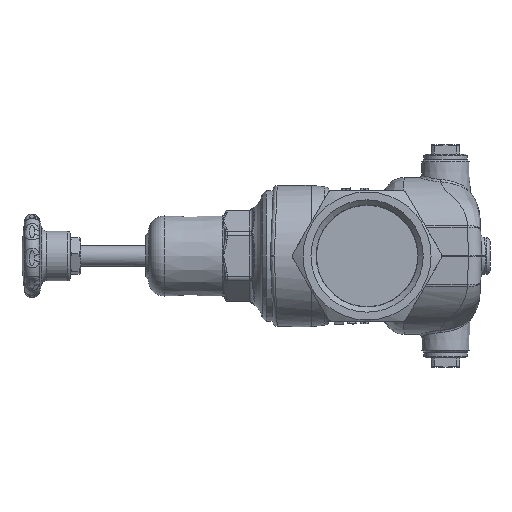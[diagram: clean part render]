
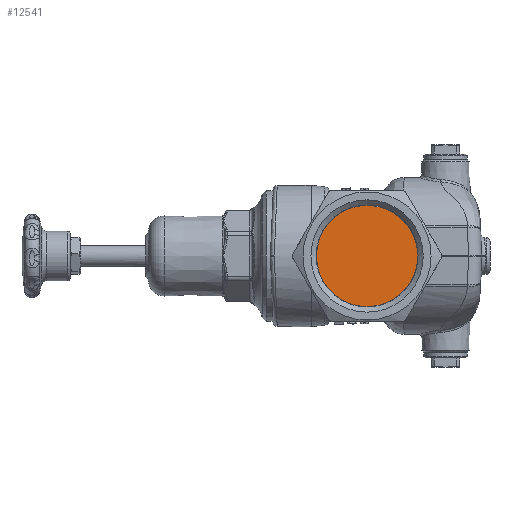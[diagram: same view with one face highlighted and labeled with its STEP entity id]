
A CAD part, left-side view. The second image highlights one B-rep face of the part: STEP entity #12541.
In plain terms, the highlighted planar face has unit normal (-1, 0, 0).
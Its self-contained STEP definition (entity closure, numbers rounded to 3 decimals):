
#594=CIRCLE('',#13308,19.364);
#1147=PLANE('',#13307);
#2530=FACE_OUTER_BOUND('',#3282,.T.);
#3282=EDGE_LOOP('',(#7850));
#4729=VERTEX_POINT('',#17147);
#5933=EDGE_CURVE('',#4729,#4729,#594,.T.);
#7850=ORIENTED_EDGE('',*,*,#5933,.T.);
#12541=ADVANCED_FACE('',(#2530),#1147,.T.);
#13307=AXIS2_PLACEMENT_3D('',#17146,#14371,#14372);
#13308=AXIS2_PLACEMENT_3D('',#17148,#14373,#14374);
#14371=DIRECTION('center_axis',(-1.,0.,0.));
#14372=DIRECTION('ref_axis',(0.,-1.,0.));
#14373=DIRECTION('center_axis',(-1.,0.,0.));
#14374=DIRECTION('ref_axis',(0.,1.,0.));
#17146=CARTESIAN_POINT('Origin',(-30.942,88.833,0.));
#17147=CARTESIAN_POINT('',(-30.942,-19.364,0.));
#17148=CARTESIAN_POINT('Origin',(-30.942,0.,0.));
